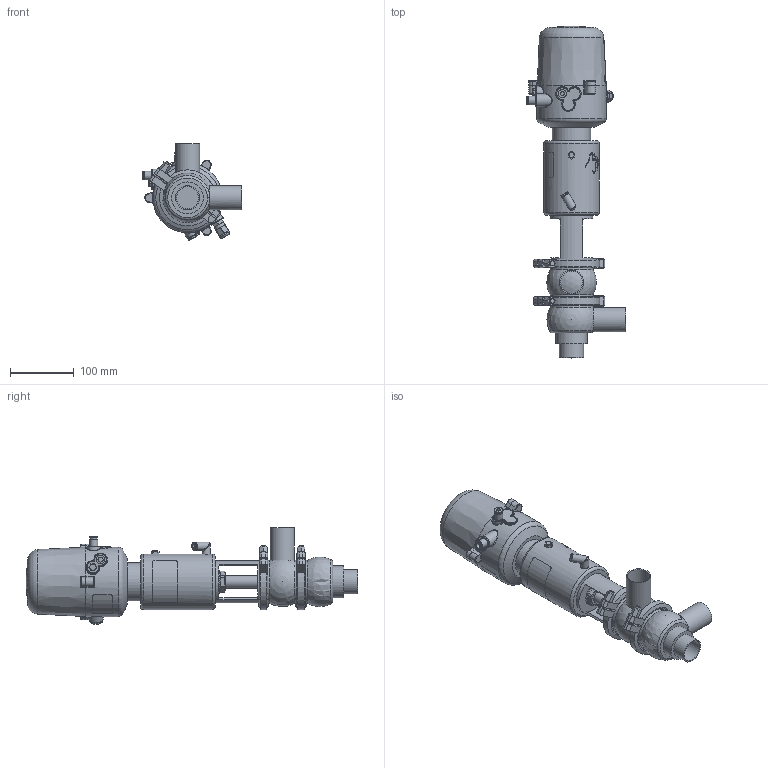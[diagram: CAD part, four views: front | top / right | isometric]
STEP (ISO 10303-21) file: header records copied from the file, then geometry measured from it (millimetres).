
FILE_DESCRIPTION (( 'STEP AP214' ), '1' );
FILE_NAME ('INNOVA K H W OD 1½ T1 AS NC & C-TOP S_10.240.16.0073.STEP', '2024-08-06T08:54:46', ( '' ), ( '' ), 'SwSTEP 2.0', 'SolidWorks 2023', '' );
FILE_SCHEMA (( 'AUTOMOTIVE_DESIGN' ));
Length unit declared in the file: millimetre
Products named in the file (8): 10.240.15.0014_T1 AS P0; 10.240.15.0001_DN 040; 10.240.15.0017_Estàndard; 10.240.15.0002_OD 1½"; 10.426.15.0001_C-TOP S - 1 EV; 10.240.15.0010_DN 040; 10.240.15.0006_OD 1½"; INNOVA K H W OD 1½ T1 AS NC & C-TOP S_10.240.16.0073
Assembly tree (8 placements, depth 2):
  INNOVA K H W OD 1½ T1 AS NC & C-TOP S_10.240.16.0073
    10.240.15.0006_OD 1½"
    10.240.15.0002_OD 1½"
    10.240.15.0010_DN 040
    10.240.15.0014_T1 AS P0
    10.240.15.0017_Estàndard
    10.426.15.0001_C-TOP S - 1 EV
    10.240.15.0001_DN 040  x2
Bounding box: 156 x 521.5 x 151.63 mm (x, y, z)
Volume: 2823365 mm3; surface area: 276644.3 mm2
Topology: 8 solids, 8 shells, 1173 faces, 2833 edges, 1886 vertices
Faces by surface type: plane 410, cylinder 356, cone 201, bspline 160, torus 38, sphere 8
Full cylindrical faces by diameter (mm): 0.371 x17, 0.512 x16, 0.658 x16, 0.795 x16, 0.94 x15, 1.098 x15, 1.241 x13, 1.382 x13, 1.523 x11, 1.669 x10, 2.201 x1, 4 x2, 5.5 x2, 6 x2, 6.15 x1, 8 x6, 8.5 x1, 10 x1, 10.5 x1, 11 x2, 12.5 x3, 13 x2, 13.5 x2, 16 x1, 17 x3, 20 x3, 20.5 x1, 22 x2, 31 x1, 34.5 x3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
Entity records: 56979 total; most frequent: CARTESIAN_POINT 26763, ORIENTED_EDGE 4514, DIRECTION 3651, EDGE_CURVE 2257, VERTEX_POINT 1606, EDGE_LOOP 1571, AXIS2_PLACEMENT_3D 1497, FACE_OUTER_BOUND 1332
